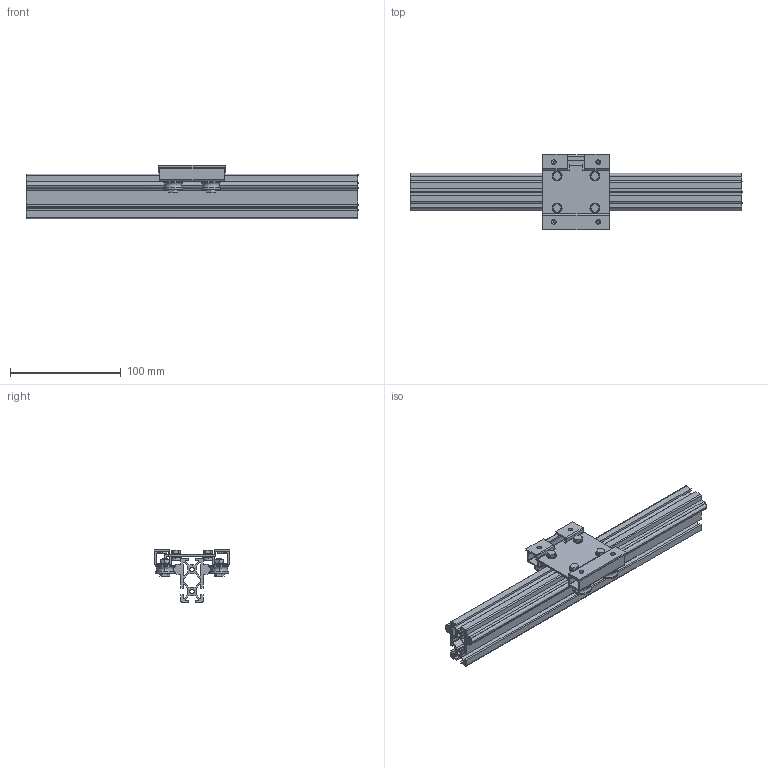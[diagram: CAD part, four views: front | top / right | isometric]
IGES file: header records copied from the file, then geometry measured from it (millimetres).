
Global section: file name: No Iges File Name specified; native system: AutoDesk Inventor R11.0; preprocessor: AutoDesk Inventor Iges Exporter R11.0; author: No Author specified; organization: No Organization specified; date: 20170802.093131; units: millimetre
Bounding box: 300 x 68 x 48 mm (x, y, z)
Surface area: 128269.9 mm2 (no closed solid volume)
Topology: 0 solids, 0 shells, 546 faces, 3206 edges, 3206 vertices
Faces by surface type: bspline 546
